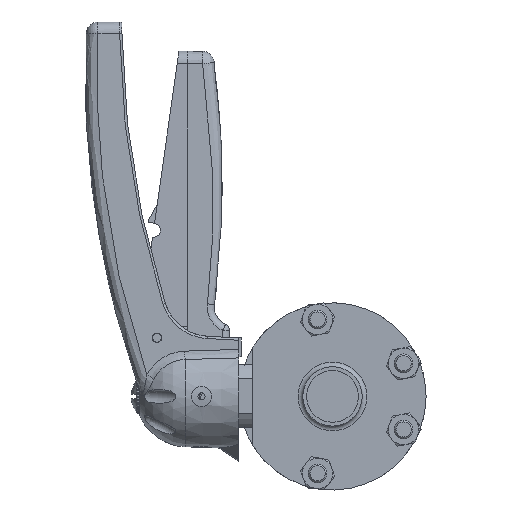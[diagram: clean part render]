
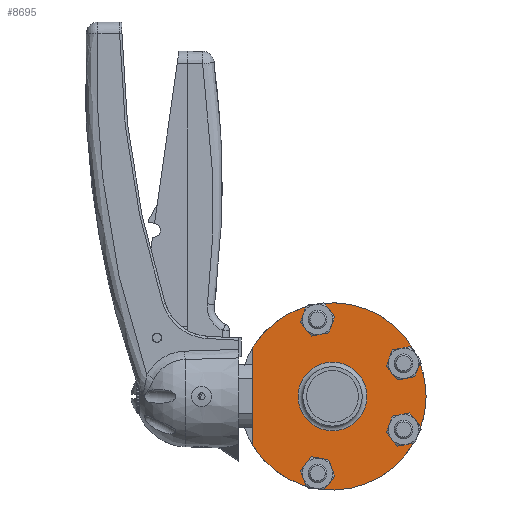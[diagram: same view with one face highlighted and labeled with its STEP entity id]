
A CAD part, left-side view. The second image highlights one B-rep face of the part: STEP entity #8695.
In plain terms, the highlighted planar face has unit normal (-1, 0, 0) as drawn and (1, 0, 0) by its records, which use the part's own axes.
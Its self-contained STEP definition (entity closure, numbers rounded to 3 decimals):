
#1575=LINE('',#24029,#2155);
#2155=VECTOR('',#11678,10.);
#2217=FACE_BOUND('',#3229,.T.);
#2218=FACE_BOUND('',#3230,.T.);
#2219=FACE_BOUND('',#3231,.T.);
#2220=FACE_BOUND('',#3232,.T.);
#2221=FACE_BOUND('',#3233,.T.);
#2697=FACE_OUTER_BOUND('',#3228,.T.);
#3228=EDGE_LOOP('',(#7981,#7982));
#3229=EDGE_LOOP('',(#7983));
#3230=EDGE_LOOP('',(#7984));
#3231=EDGE_LOOP('',(#7985));
#3232=EDGE_LOOP('',(#7986));
#3233=EDGE_LOOP('',(#7987));
#3542=CIRCLE('',#9601,40.);
#3548=CIRCLE('',#9609,4.1);
#3549=CIRCLE('',#9611,4.1);
#3550=CIRCLE('',#9613,4.1);
#3551=CIRCLE('',#9615,4.1);
#3552=CIRCLE('',#9617,14.7);
#4314=VERTEX_POINT('',#24027);
#4315=VERTEX_POINT('',#24028);
#4323=VERTEX_POINT('',#24050);
#4324=VERTEX_POINT('',#24054);
#4325=VERTEX_POINT('',#24058);
#4326=VERTEX_POINT('',#24062);
#4327=VERTEX_POINT('',#24066);
#5529=EDGE_CURVE('',#4314,#4315,#1575,.T.);
#5534=EDGE_CURVE('',#4315,#4314,#3542,.T.);
#5540=EDGE_CURVE('',#4323,#4323,#3548,.T.);
#5542=EDGE_CURVE('',#4324,#4324,#3549,.T.);
#5544=EDGE_CURVE('',#4325,#4325,#3550,.T.);
#5546=EDGE_CURVE('',#4326,#4326,#3551,.T.);
#5548=EDGE_CURVE('',#4327,#4327,#3552,.T.);
#7981=ORIENTED_EDGE('',*,*,#5529,.T.);
#7982=ORIENTED_EDGE('',*,*,#5534,.T.);
#7983=ORIENTED_EDGE('',*,*,#5540,.T.);
#7984=ORIENTED_EDGE('',*,*,#5542,.T.);
#7985=ORIENTED_EDGE('',*,*,#5544,.T.);
#7986=ORIENTED_EDGE('',*,*,#5546,.T.);
#7987=ORIENTED_EDGE('',*,*,#5548,.F.);
#8219=PLANE('',#9616);
#8695=ADVANCED_FACE('',(#2697,#2217,#2218,#2219,#2220,#2221),#8219,.T.);
#9601=AXIS2_PLACEMENT_3D('',#24037,#11686,#11687);
#9609=AXIS2_PLACEMENT_3D('',#24051,#11702,#11703);
#9611=AXIS2_PLACEMENT_3D('',#24055,#11707,#11708);
#9613=AXIS2_PLACEMENT_3D('',#24059,#11712,#11713);
#9615=AXIS2_PLACEMENT_3D('',#24063,#11717,#11718);
#9616=AXIS2_PLACEMENT_3D('',#24065,#11720,#11721);
#9617=AXIS2_PLACEMENT_3D('',#24067,#11722,#11723);
#11678=DIRECTION('',(0.,0.,1.));
#11686=DIRECTION('center_axis',(1.,0.,0.));
#11687=DIRECTION('ref_axis',(0.,0.,-1.));
#11702=DIRECTION('center_axis',(-1.,0.,0.));
#11703=DIRECTION('ref_axis',(0.,0.,1.));
#11707=DIRECTION('center_axis',(-1.,0.,0.));
#11708=DIRECTION('ref_axis',(0.,0.,1.));
#11712=DIRECTION('center_axis',(-1.,0.,0.));
#11713=DIRECTION('ref_axis',(0.,0.,-1.));
#11717=DIRECTION('center_axis',(-1.,0.,0.));
#11718=DIRECTION('ref_axis',(0.,0.,-1.));
#11720=DIRECTION('center_axis',(1.,0.,0.));
#11721=DIRECTION('ref_axis',(0.,0.,-1.));
#11722=DIRECTION('center_axis',(1.,0.,0.));
#11723=DIRECTION('ref_axis',(0.,0.,-1.));
#24027=CARTESIAN_POINT('',(10.,34.,-21.071));
#24028=CARTESIAN_POINT('',(10.,34.,21.071));
#24029=CARTESIAN_POINT('',(10.,34.,-10.536));
#24037=CARTESIAN_POINT('Origin',(10.,0.,0.));
#24050=CARTESIAN_POINT('',(10.,6.392,28.785));
#24051=CARTESIAN_POINT('Origin',(10.,6.392,32.885));
#24054=CARTESIAN_POINT('',(10.,-30.361,10.058));
#24055=CARTESIAN_POINT('Origin',(10.,-30.361,14.158));
#24058=CARTESIAN_POINT('',(10.,6.392,-28.785));
#24059=CARTESIAN_POINT('Origin',(10.,6.392,-32.885));
#24062=CARTESIAN_POINT('',(10.,-30.361,-10.058));
#24063=CARTESIAN_POINT('Origin',(10.,-30.361,-14.158));
#24065=CARTESIAN_POINT('Origin',(10.,14.7,0.));
#24066=CARTESIAN_POINT('',(10.,0.,14.7));
#24067=CARTESIAN_POINT('Origin',(10.,0.,0.));
